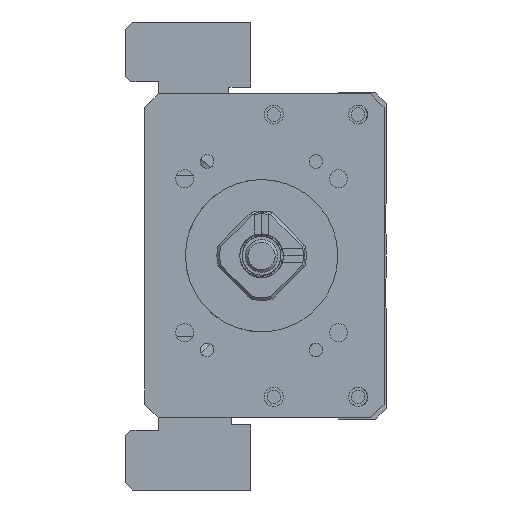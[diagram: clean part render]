
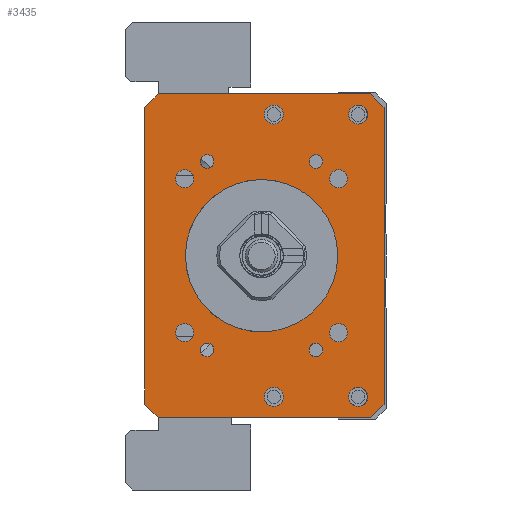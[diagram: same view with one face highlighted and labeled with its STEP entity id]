
A CAD part, left-side view. The second image highlights one B-rep face of the part: STEP entity #3435.
In plain terms, the highlighted planar face has unit normal (-1, 0, 0).
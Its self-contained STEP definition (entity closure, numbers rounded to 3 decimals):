
#772=LINE('',#18767,#1695);
#774=LINE('',#18791,#1697);
#775=LINE('',#18793,#1698);
#776=LINE('',#18795,#1699);
#777=LINE('',#18797,#1700);
#778=LINE('',#18799,#1701);
#779=LINE('',#18801,#1702);
#780=LINE('',#18803,#1703);
#1695=VECTOR('',#14885,1.);
#1697=VECTOR('',#14909,1.);
#1698=VECTOR('',#14910,1.);
#1699=VECTOR('',#14911,1.);
#1700=VECTOR('',#14912,1.);
#1701=VECTOR('',#14913,1.);
#1702=VECTOR('',#14914,1.);
#1703=VECTOR('',#14915,1.);
#2873=FACE_BOUND('',#5282,.T.);
#2874=FACE_BOUND('',#5283,.T.);
#2875=FACE_BOUND('',#5284,.T.);
#2876=FACE_BOUND('',#5285,.T.);
#2877=FACE_BOUND('',#5286,.T.);
#2878=FACE_BOUND('',#5287,.T.);
#2879=FACE_BOUND('',#5288,.T.);
#2880=FACE_BOUND('',#5289,.T.);
#2881=FACE_BOUND('',#5290,.T.);
#2882=FACE_BOUND('',#5291,.T.);
#2883=FACE_BOUND('',#5292,.T.);
#2884=FACE_BOUND('',#5293,.T.);
#2885=FACE_BOUND('',#5294,.T.);
#2886=FACE_BOUND('',#5295,.T.);
#3435=ADVANCED_FACE('',(#2873,#2874,#2875,#2876,#2877,#2878,#2879,#2880,
#2881,#2882,#2883,#2884,#2885,#2886),#4048,.F.);
#4048=PLANE('',#12852);
#5282=EDGE_LOOP('',(#7040));
#5283=EDGE_LOOP('',(#7041));
#5284=EDGE_LOOP('',(#7042));
#5285=EDGE_LOOP('',(#7043));
#5286=EDGE_LOOP('',(#7044));
#5287=EDGE_LOOP('',(#7045));
#5288=EDGE_LOOP('',(#7046));
#5289=EDGE_LOOP('',(#7047));
#5290=EDGE_LOOP('',(#7048));
#5291=EDGE_LOOP('',(#7049,#7050,#7051,#7052,#7053,#7054,#7055,#7056));
#5292=EDGE_LOOP('',(#7057));
#5293=EDGE_LOOP('',(#7058));
#5294=EDGE_LOOP('',(#7059));
#5295=EDGE_LOOP('',(#7060));
#7040=ORIENTED_EDGE('',*,*,#10837,.F.);
#7041=ORIENTED_EDGE('',*,*,#10838,.F.);
#7042=ORIENTED_EDGE('',*,*,#10839,.F.);
#7043=ORIENTED_EDGE('',*,*,#10840,.F.);
#7044=ORIENTED_EDGE('',*,*,#10841,.F.);
#7045=ORIENTED_EDGE('',*,*,#10842,.T.);
#7046=ORIENTED_EDGE('',*,*,#10843,.F.);
#7047=ORIENTED_EDGE('',*,*,#10844,.F.);
#7048=ORIENTED_EDGE('',*,*,#10845,.F.);
#7049=ORIENTED_EDGE('',*,*,#10834,.T.);
#7050=ORIENTED_EDGE('',*,*,#10846,.T.);
#7051=ORIENTED_EDGE('',*,*,#10847,.F.);
#7052=ORIENTED_EDGE('',*,*,#10848,.T.);
#7053=ORIENTED_EDGE('',*,*,#10849,.F.);
#7054=ORIENTED_EDGE('',*,*,#10850,.T.);
#7055=ORIENTED_EDGE('',*,*,#10851,.T.);
#7056=ORIENTED_EDGE('',*,*,#10852,.T.);
#7057=ORIENTED_EDGE('',*,*,#10853,.F.);
#7058=ORIENTED_EDGE('',*,*,#10854,.F.);
#7059=ORIENTED_EDGE('',*,*,#10855,.F.);
#7060=ORIENTED_EDGE('',*,*,#10814,.F.);
#9530=VERTEX_POINT('',#18706);
#9550=VERTEX_POINT('',#18766);
#9551=VERTEX_POINT('',#18768);
#9553=VERTEX_POINT('',#18774);
#9554=VERTEX_POINT('',#18776);
#9555=VERTEX_POINT('',#18778);
#9556=VERTEX_POINT('',#18780);
#9557=VERTEX_POINT('',#18782);
#9558=VERTEX_POINT('',#18784);
#9559=VERTEX_POINT('',#18786);
#9560=VERTEX_POINT('',#18788);
#9561=VERTEX_POINT('',#18790);
#9562=VERTEX_POINT('',#18792);
#9563=VERTEX_POINT('',#18794);
#9564=VERTEX_POINT('',#18796);
#9565=VERTEX_POINT('',#18798);
#9566=VERTEX_POINT('',#18800);
#9567=VERTEX_POINT('',#18802);
#9568=VERTEX_POINT('',#18805);
#9569=VERTEX_POINT('',#18807);
#9570=VERTEX_POINT('',#18809);
#10814=EDGE_CURVE('',#9530,#9530,#12074,.T.);
#10834=EDGE_CURVE('',#9551,#9550,#772,.T.);
#10837=EDGE_CURVE('',#9553,#9553,#12083,.T.);
#10838=EDGE_CURVE('',#9554,#9554,#12084,.T.);
#10839=EDGE_CURVE('',#9555,#9555,#12085,.T.);
#10840=EDGE_CURVE('',#9556,#9556,#12086,.T.);
#10841=EDGE_CURVE('',#9557,#9557,#12087,.T.);
#10842=EDGE_CURVE('',#9558,#9558,#12088,.T.);
#10843=EDGE_CURVE('',#9559,#9559,#12089,.T.);
#10844=EDGE_CURVE('',#9560,#9560,#12090,.T.);
#10845=EDGE_CURVE('',#9561,#9561,#12091,.T.);
#10846=EDGE_CURVE('',#9550,#9562,#774,.T.);
#10847=EDGE_CURVE('',#9563,#9562,#775,.T.);
#10848=EDGE_CURVE('',#9563,#9564,#776,.T.);
#10849=EDGE_CURVE('',#9565,#9564,#777,.T.);
#10850=EDGE_CURVE('',#9565,#9566,#778,.T.);
#10851=EDGE_CURVE('',#9566,#9567,#779,.T.);
#10852=EDGE_CURVE('',#9567,#9551,#780,.T.);
#10853=EDGE_CURVE('',#9568,#9568,#12092,.T.);
#10854=EDGE_CURVE('',#9569,#9569,#12093,.T.);
#10855=EDGE_CURVE('',#9570,#9570,#12094,.T.);
#12074=CIRCLE('',#12829,14.);
#12083=CIRCLE('',#12840,1.65);
#12084=CIRCLE('',#12841,1.65);
#12085=CIRCLE('',#12842,1.65);
#12086=CIRCLE('',#12843,1.65);
#12087=CIRCLE('',#12844,1.25);
#12088=CIRCLE('',#12845,1.75);
#12089=CIRCLE('',#12846,1.25);
#12090=CIRCLE('',#12847,1.75);
#12091=CIRCLE('',#12848,1.25);
#12092=CIRCLE('',#12849,1.75);
#12093=CIRCLE('',#12850,1.75);
#12094=CIRCLE('',#12851,1.25);
#12829=AXIS2_PLACEMENT_3D('',#18705,#14859,#14860);
#12840=AXIS2_PLACEMENT_3D('',#18773,#14891,#14892);
#12841=AXIS2_PLACEMENT_3D('',#18775,#14893,#14894);
#12842=AXIS2_PLACEMENT_3D('',#18777,#14895,#14896);
#12843=AXIS2_PLACEMENT_3D('',#18779,#14897,#14898);
#12844=AXIS2_PLACEMENT_3D('',#18781,#14899,#14900);
#12845=AXIS2_PLACEMENT_3D('',#18783,#14901,#14902);
#12846=AXIS2_PLACEMENT_3D('',#18785,#14903,#14904);
#12847=AXIS2_PLACEMENT_3D('',#18787,#14905,#14906);
#12848=AXIS2_PLACEMENT_3D('',#18789,#14907,#14908);
#12849=AXIS2_PLACEMENT_3D('',#18804,#14916,#14917);
#12850=AXIS2_PLACEMENT_3D('',#18806,#14918,#14919);
#12851=AXIS2_PLACEMENT_3D('',#18808,#14920,#14921);
#12852=AXIS2_PLACEMENT_3D('',#18810,#14922,#14923);
#14859=DIRECTION('',(-1.,0.,0.));
#14860=DIRECTION('',(0.,1.,0.));
#14885=DIRECTION('',(0.,0.,-1.));
#14891=DIRECTION('',(-1.,0.,0.));
#14892=DIRECTION('',(0.,0.,1.));
#14893=DIRECTION('',(-1.,0.,0.));
#14894=DIRECTION('',(0.,0.,1.));
#14895=DIRECTION('',(-1.,0.,0.));
#14896=DIRECTION('',(0.,0.,1.));
#14897=DIRECTION('',(-1.,0.,0.));
#14898=DIRECTION('',(0.,0.,1.));
#14899=DIRECTION('',(-1.,0.,0.));
#14900=DIRECTION('',(0.,1.,0.));
#14901=DIRECTION('',(1.,0.,0.));
#14902=DIRECTION('',(0.,0.,1.));
#14903=DIRECTION('',(-1.,0.,0.));
#14904=DIRECTION('',(0.,1.,0.));
#14905=DIRECTION('',(-1.,0.,0.));
#14906=DIRECTION('',(0.,0.,1.));
#14907=DIRECTION('',(-1.,0.,0.));
#14908=DIRECTION('',(0.,1.,0.));
#14909=DIRECTION('',(0.,-0.707,-0.707));
#14910=DIRECTION('',(0.,1.,0.));
#14911=DIRECTION('',(0.,-0.707,0.707));
#14912=DIRECTION('',(0.,0.,-1.));
#14913=DIRECTION('',(0.,0.707,0.707));
#14914=DIRECTION('',(0.,1.,0.));
#14915=DIRECTION('',(0.,0.707,-0.707));
#14916=DIRECTION('',(-1.,0.,0.));
#14917=DIRECTION('',(0.,0.,1.));
#14918=DIRECTION('',(-1.,0.,0.));
#14919=DIRECTION('',(0.,0.,1.));
#14920=DIRECTION('',(-1.,0.,0.));
#14921=DIRECTION('',(0.,1.,0.));
#14922=DIRECTION('',(1.,0.,0.));
#14923=DIRECTION('',(0.,1.,0.));
#18705=CARTESIAN_POINT('',(-211.,0.,0.));
#18706=CARTESIAN_POINT('',(-211.,14.,0.));
#18766=CARTESIAN_POINT('',(-211.,21.499,-27.25));
#18767=CARTESIAN_POINT('',(-211.,21.499,29.75));
#18768=CARTESIAN_POINT('',(-211.,21.499,27.25));
#18773=CARTESIAN_POINT('',(-211.,14.142,14.142));
#18774=CARTESIAN_POINT('',(-211.,14.142,15.792));
#18775=CARTESIAN_POINT('',(-211.,-14.142,14.142));
#18776=CARTESIAN_POINT('',(-211.,-14.142,15.792));
#18777=CARTESIAN_POINT('',(-211.,14.142,-14.142));
#18778=CARTESIAN_POINT('',(-211.,14.142,-12.492));
#18779=CARTESIAN_POINT('',(-211.,-14.142,-14.142));
#18780=CARTESIAN_POINT('',(-211.,-14.142,-12.492));
#18781=CARTESIAN_POINT('',(-211.,-10.,-17.321));
#18782=CARTESIAN_POINT('',(-211.,-8.75,-17.321));
#18783=CARTESIAN_POINT('',(-211.,-2.25,-25.936));
#18784=CARTESIAN_POINT('',(-211.,-2.25,-24.186));
#18785=CARTESIAN_POINT('',(-211.,10.,17.321));
#18786=CARTESIAN_POINT('',(-211.,11.25,17.321));
#18787=CARTESIAN_POINT('',(-211.,-2.25,25.936));
#18788=CARTESIAN_POINT('',(-211.,-2.25,27.686));
#18789=CARTESIAN_POINT('',(-211.,10.,-17.321));
#18790=CARTESIAN_POINT('',(-211.,11.25,-17.321));
#18791=CARTESIAN_POINT('',(-211.,18.999,-29.75));
#18792=CARTESIAN_POINT('',(-211.,18.999,-29.75));
#18793=CARTESIAN_POINT('',(-211.,-22.501,-29.75));
#18794=CARTESIAN_POINT('',(-211.,-20.001,-29.75));
#18795=CARTESIAN_POINT('',(-211.,-22.501,-27.25));
#18796=CARTESIAN_POINT('',(-211.,-22.501,-27.25));
#18797=CARTESIAN_POINT('',(-211.,-22.501,29.75));
#18798=CARTESIAN_POINT('',(-211.,-22.501,27.25));
#18799=CARTESIAN_POINT('',(-211.,-22.501,27.25));
#18800=CARTESIAN_POINT('',(-211.,-20.001,29.75));
#18801=CARTESIAN_POINT('',(-211.,-22.501,29.75));
#18802=CARTESIAN_POINT('',(-211.,18.999,29.75));
#18803=CARTESIAN_POINT('',(-211.,18.999,29.75));
#18804=CARTESIAN_POINT('',(-211.,-17.75,25.936));
#18805=CARTESIAN_POINT('',(-211.,-17.75,27.686));
#18806=CARTESIAN_POINT('',(-211.,-17.75,-25.936));
#18807=CARTESIAN_POINT('',(-211.,-17.75,-24.186));
#18808=CARTESIAN_POINT('',(-211.,-10.,17.321));
#18809=CARTESIAN_POINT('',(-211.,-8.75,17.321));
#18810=CARTESIAN_POINT('',(-211.,-22.501,29.75));
